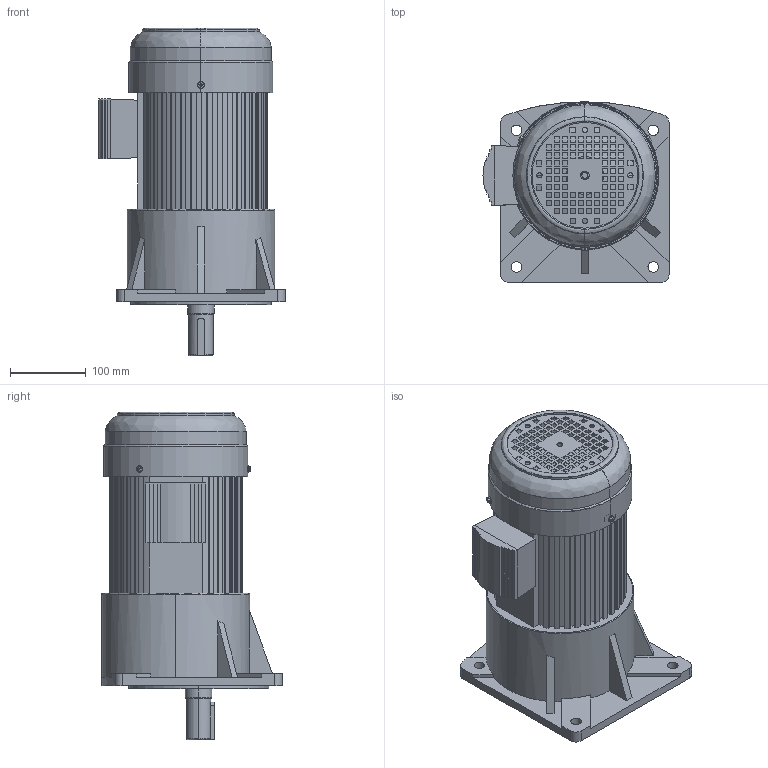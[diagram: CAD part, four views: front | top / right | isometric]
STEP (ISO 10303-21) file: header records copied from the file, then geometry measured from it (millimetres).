
FILE_DESCRIPTION (( 'STEP AP214' ), '1' );
FILE_NAME ('CV32-1500W去字改颜色.STEP', '2024-01-11T05:30:15', ( '微软用户' ), ( '微软中国' ), 'SwSTEP 2.0', 'SolidWorks 2014', '' );
FILE_SCHEMA (( 'AUTOMOTIVE_DESIGN' ));
Length unit declared in the file: millimetre
Products named in the file (1): CV32-1500W去字改颜色
Bounding box: 245.5 x 238 x 432.56 mm (x, y, z)
Volume: 5170810.3 mm3; surface area: 705304.9 mm2
Topology: 8 solids, 8 shells, 1212 faces, 3434 edges, 2254 vertices
Faces by surface type: plane 711, cylinder 458, cone 22, bspline 21
Entity records: 41976 total; most frequent: CARTESIAN_POINT 7977, ORIENTED_EDGE 6868, DIRECTION 6866, EDGE_CURVE 3434, LINE 2356, VECTOR 2356, AXIS2_PLACEMENT_3D 2255, VERTEX_POINT 2254
